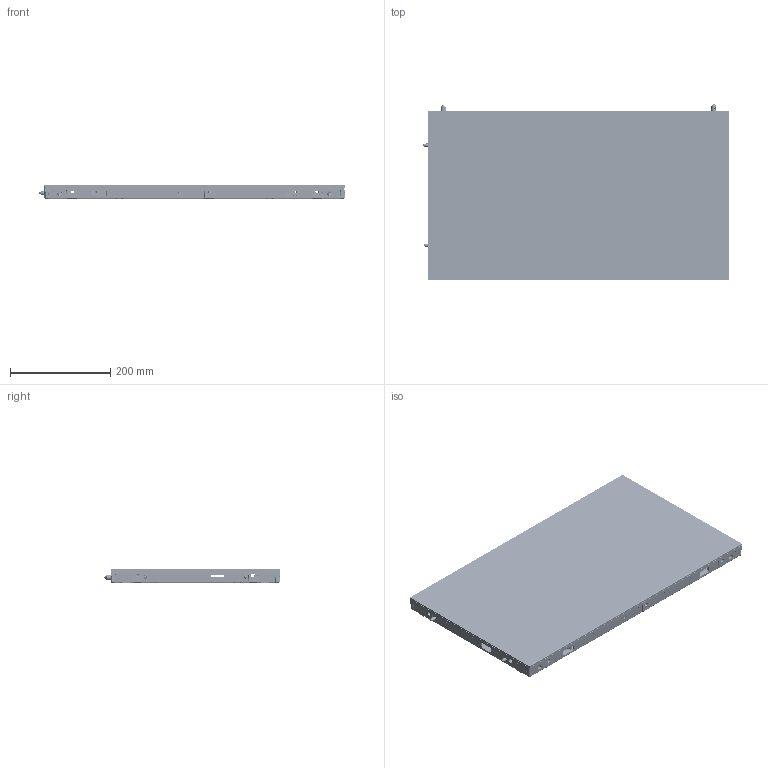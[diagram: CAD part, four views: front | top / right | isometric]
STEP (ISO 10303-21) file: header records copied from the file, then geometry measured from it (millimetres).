
FILE_DESCRIPTION (( 'STEP AP203' ), '1' );
FILE_NAME ('Core-3?10-18.stp', '2023-10-18T06:13:24', ( '' ), ( '' ), 'SwSTEP 2.0', 'SolidWorks 2020', '' );
FILE_SCHEMA (( 'CONFIG_CONTROL_DESIGN' ));
Length unit declared in the file: millimetre
Products named in the file (26): M2-3; 背部进线孔堵头（卡扣）; Core-3?10-18; 諉彶縐; VE3电源压片2（非连接款）; 隅弇种-20220325; mup200wt1; 9.9mm詢厙諳傷赽; 祥侂迕蹟隊-M8-25.step; 隅弇种 蚾饜极1; 掖窒輛盄謂縐諶-20220315; VE-3儂眊嘎殤; VE3源偶尨砩醱啣Ｍ; 忒梟1; 沺え-220323; 萇埭譫傷綠3.5mm-4.stp; 耀郪-1x4; 爾諉肣翐M2; 隅弇翐-10; 萇埭芛-20220314; 隅弇种1; M3X6-818; 縐盄釱-210811; 沺え-v01; 转接板-1x4版本-网线版; 麦格米特电源2-140尺寸
Assembly tree (153 placements, depth 3):
  Core-3?10-18
    VE-3儂眊嘎殤
    隅弇翐-10  x2
    背部进线孔堵头（卡扣）
    mup200wt1
    麦格米特电源2-140尺寸
    VE3源偶尨砩醱啣Ｍ  x5
    沺え-v01  x10
    耀郪-1x4
      諉彶縐  x2
      9.9mm詢厙諳傷赽  x4
      转接板-1x4版本-网线版
    萇埭芛-20220314
    VE3电源压片2（非连接款）  x8
    M3X6-818  x23
    縐盄釱-210811  x4
    爾諉肣翐M2  x40
    M2-3  x40
    隅弇种 蚾饜极1
      隅弇种1
      忒梟1
    掖窒輛盄謂縐諶-20220315
    萇埭譫傷綠3.5mm-4.stp
    沺え-220323
    隅弇种-20220325
    祥侂迕蹟隊-M8-25.step
Bounding box: 610.34 x 350.46 x 29 mm (x, y, z)
Volume: 1688994.6 mm3; surface area: 1946644.3 mm2
Topology: 157 solids, 171 shells, 15881 faces, 39272 edges, 24122 vertices
Faces by surface type: plane 5315, bspline 4797, cylinder 4689, cone 1076, sphere 4
Entity records: 585163 total; most frequent: CARTESIAN_POINT 310635, ORIENTED_EDGE 64722, DIRECTION 42811, EDGE_CURVE 32375, VERTEX_POINT 19679, AXIS2_PLACEMENT_3D 15212, EDGE_LOOP 13543, FACE_OUTER_BOUND 13061
